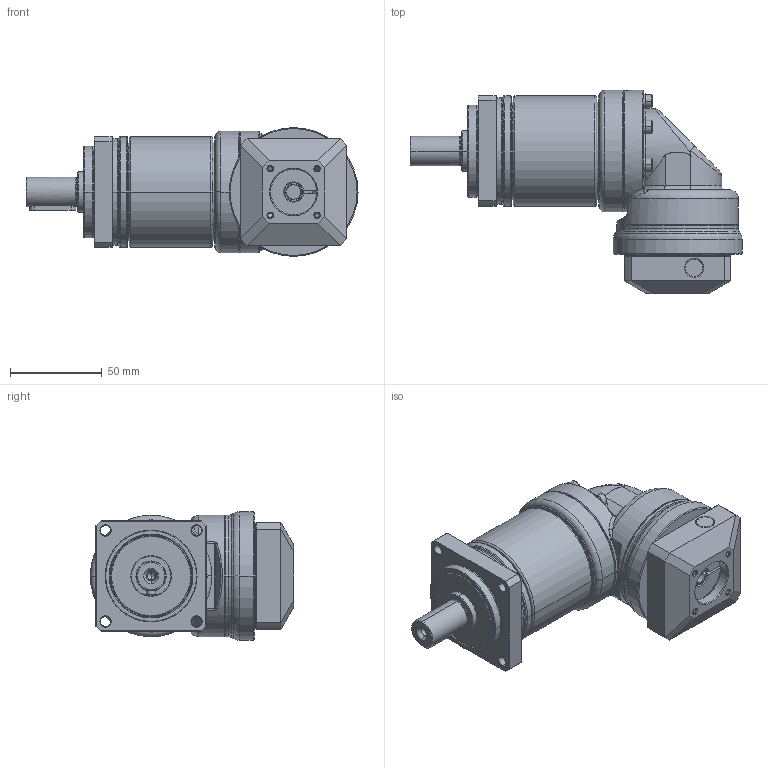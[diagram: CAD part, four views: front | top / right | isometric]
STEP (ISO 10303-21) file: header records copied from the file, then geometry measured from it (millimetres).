
FILE_DESCRIPTION((''),'2;1');
FILE_NAME('PA2R-060_2ST_8-P0411100101_ASM','2016-05-13T',('d01943'),(''),'PRO/ENGINEER BY PARAMETRIC TECHNOLOGY CORPORATION, 2008410','PRO/ENGINEER BY PARAMETRIC TECHNOLOGY CORPORATION, 2008410','');
FILE_SCHEMA(('CONFIG_CONTROL_DESIGN'));
Length unit declared in the file: millimetre
Products named in the file (12): P1327210001; P0251200001; P0350200001; P1349200001; P1017200001; P0713200001; P0503100005; P1350200001; P0411100101; P1702300001; 2111B104020; PA2R-060_2ST_8-P0411100101_ASM
Assembly tree (16 placements, depth 2):
  PA2R-060_2ST_8-P0411100101_ASM
    P1327210001
    P0251200001
    P0350200001
    P1349200001
    P1017200001
    P0713200001
    P0503100005
    P1350200001
    P0411100101
    P1702300001
    2111B104020  x6
Bounding box: 180.5 x 110.5 x 70 mm (x, y, z)
Volume: 347504.7 mm3; surface area: 111906.9 mm2
Topology: 16 solids, 16 shells, 817 faces, 1804 edges, 1047 vertices
Faces by surface type: cylinder 248, cone 228, plane 203, torus 106, bspline 32
Entity records: 24131 total; most frequent: CARTESIAN_POINT 9369, DIRECTION 3269, ORIENTED_EDGE 2872, EDGE_CURVE 1436, AXIS2_PLACEMENT_3D 1381, VERTEX_POINT 847, EDGE_LOOP 739, CIRCLE 733
